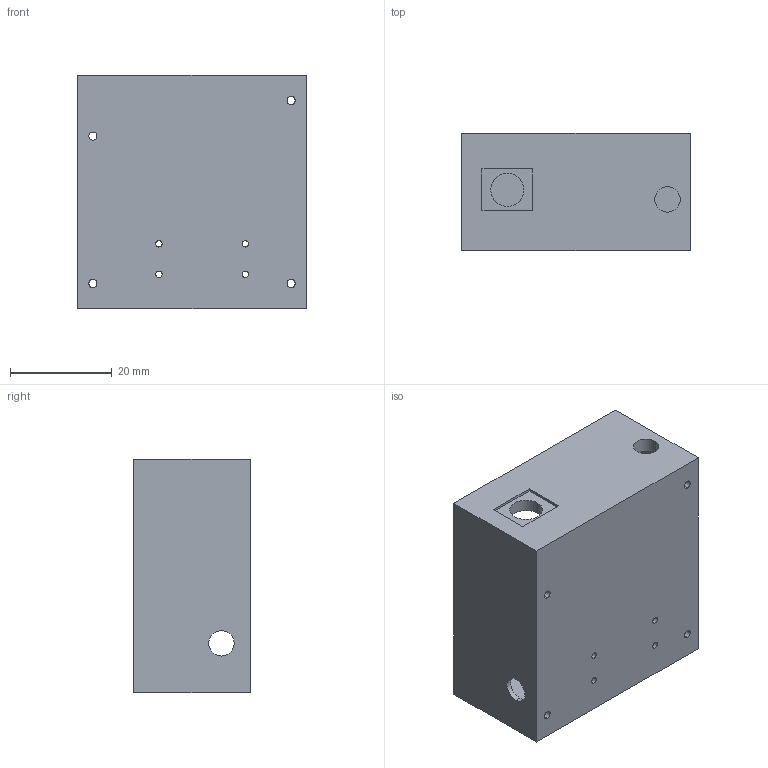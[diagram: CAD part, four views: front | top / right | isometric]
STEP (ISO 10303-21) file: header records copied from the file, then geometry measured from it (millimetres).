
FILE_DESCRIPTION (( 'STEP AP203' ), '1' );
FILE_NAME ('碟赽.STEP', '2026-01-29T09:23:16', ( '' ), ( '' ), 'SwSTEP 2.0', 'SolidWorks 2022', '' );
FILE_SCHEMA (( 'CONFIG_CONTROL_DESIGN' ));
Length unit declared in the file: millimetre
Products named in the file (1): 碟赽
Bounding box: 45 x 23 x 46 mm (x, y, z)
Volume: 12029.9 mm3; surface area: 11896.5 mm2
Topology: 1 solids, 1 shells, 66 faces, 170 edges, 104 vertices
Faces by surface type: cylinder 34, cone 16, plane 16
Entity records: 2095 total; most frequent: DIRECTION 372, CARTESIAN_POINT 333, ORIENTED_EDGE 324, EDGE_CURVE 162, AXIS2_PLACEMENT_3D 143, VERTEX_POINT 104, EDGE_LOOP 98, LINE 86
